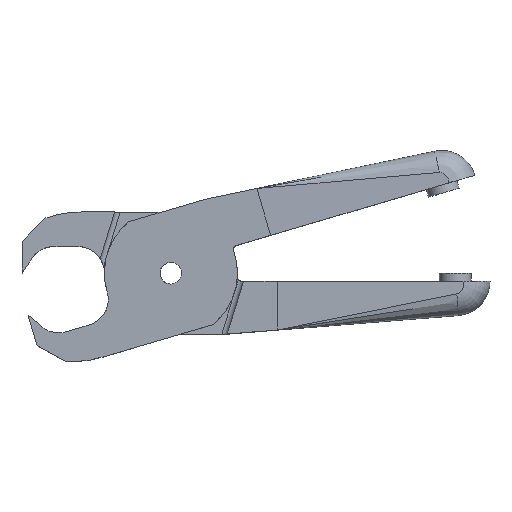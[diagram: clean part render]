
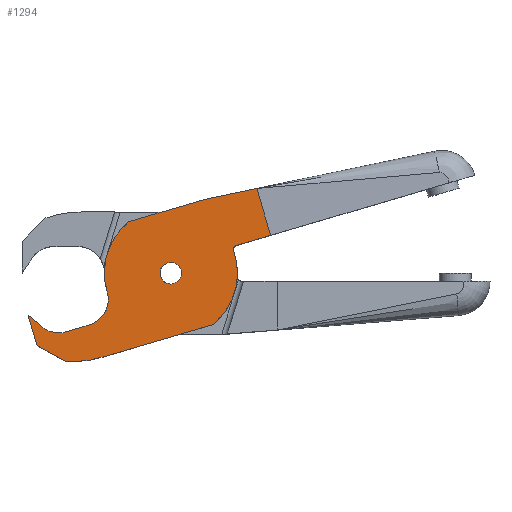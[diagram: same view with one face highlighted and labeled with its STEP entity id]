
A CAD part, top view. The second image highlights one B-rep face of the part: STEP entity #1294.
In plain terms, the highlighted planar face has unit normal (0, 0, 1).
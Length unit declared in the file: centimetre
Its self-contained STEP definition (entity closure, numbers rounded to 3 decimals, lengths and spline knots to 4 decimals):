
#14=FACE_BOUND('',#173,.T.);
#103=FACE_OUTER_BOUND('',#172,.T.);
#172=EDGE_LOOP('',(#922,#923,#924,#925,#926,#927,#928,#929,#930,#931,#932,
#933,#934,#935,#936,#937));
#173=EDGE_LOOP('',(#938));
#236=LINE('',#1854,#350);
#240=LINE('',#1862,#354);
#243=LINE('',#1869,#357);
#251=LINE('',#1886,#365);
#259=LINE('',#1941,#373);
#262=LINE('',#1946,#376);
#264=LINE('',#1950,#378);
#267=LINE('',#1957,#381);
#275=LINE('',#4180,#389);
#277=LINE('',#4184,#391);
#350=VECTOR('',#1494,2.1795);
#354=VECTOR('',#1500,0.07);
#357=VECTOR('',#1505,1.0032);
#365=VECTOR('',#1517,1.4899);
#373=VECTOR('',#1543,0.6097);
#376=VECTOR('',#1548,0.6);
#378=VECTOR('',#1552,0.2523);
#381=VECTOR('',#1561,0.45);
#389=VECTOR('',#1591,0.92);
#391=VECTOR('',#1597,0.67);
#456=CIRCLE('',#1359,0.5);
#460=CIRCLE('',#1368,0.5);
#461=CIRCLE('',#1371,2.);
#463=CIRCLE('',#1378,0.08);
#464=CIRCLE('',#1382,1.25);
#465=CIRCLE('',#1383,1.25);
#466=CIRCLE('',#1384,0.205);
#508=VERTEX_POINT('',#1851);
#509=VERTEX_POINT('',#1853);
#511=VERTEX_POINT('',#1859);
#512=VERTEX_POINT('',#1861);
#514=VERTEX_POINT('',#1866);
#515=VERTEX_POINT('',#1868);
#522=VERTEX_POINT('',#1884);
#524=VERTEX_POINT('',#1891);
#525=VERTEX_POINT('',#1893);
#532=VERTEX_POINT('',#1939);
#533=VERTEX_POINT('',#1940);
#534=VERTEX_POINT('',#1945);
#535=VERTEX_POINT('',#1949);
#536=VERTEX_POINT('',#1953);
#542=VERTEX_POINT('',#2015);
#548=VERTEX_POINT('',#4179);
#549=VERTEX_POINT('',#4186);
#633=EDGE_CURVE('',#508,#509,#236,.T.);
#637=EDGE_CURVE('',#511,#512,#240,.T.);
#640=EDGE_CURVE('',#514,#515,#243,.T.);
#649=EDGE_CURVE('',#522,#514,#251,.T.);
#653=EDGE_CURVE('',#524,#525,#456,.T.);
#663=EDGE_CURVE('',#532,#533,#259,.T.);
#666=EDGE_CURVE('',#533,#534,#262,.T.);
#668=EDGE_CURVE('',#534,#535,#264,.T.);
#670=EDGE_CURVE('',#535,#536,#460,.T.);
#672=EDGE_CURVE('',#536,#524,#267,.T.);
#673=EDGE_CURVE('',#509,#532,#461,.T.);
#683=EDGE_CURVE('',#542,#511,#463,.T.);
#692=EDGE_CURVE('',#515,#548,#275,.T.);
#694=EDGE_CURVE('',#512,#508,#464,.T.);
#695=EDGE_CURVE('',#542,#548,#277,.T.);
#696=EDGE_CURVE('',#525,#522,#465,.T.);
#697=EDGE_CURVE('',#549,#549,#466,.T.);
#922=ORIENTED_EDGE('',*,*,#673,.F.);
#923=ORIENTED_EDGE('',*,*,#633,.F.);
#924=ORIENTED_EDGE('',*,*,#694,.F.);
#925=ORIENTED_EDGE('',*,*,#637,.F.);
#926=ORIENTED_EDGE('',*,*,#683,.F.);
#927=ORIENTED_EDGE('',*,*,#695,.T.);
#928=ORIENTED_EDGE('',*,*,#692,.F.);
#929=ORIENTED_EDGE('',*,*,#640,.F.);
#930=ORIENTED_EDGE('',*,*,#649,.F.);
#931=ORIENTED_EDGE('',*,*,#696,.F.);
#932=ORIENTED_EDGE('',*,*,#653,.F.);
#933=ORIENTED_EDGE('',*,*,#672,.F.);
#934=ORIENTED_EDGE('',*,*,#670,.F.);
#935=ORIENTED_EDGE('',*,*,#668,.F.);
#936=ORIENTED_EDGE('',*,*,#666,.F.);
#937=ORIENTED_EDGE('',*,*,#663,.F.);
#938=ORIENTED_EDGE('',*,*,#697,.F.);
#1172=PLANE('',#1381);
#1294=ADVANCED_FACE('',(#103,#14),#1172,.T.);
#1359=AXIS2_PLACEMENT_3D('',#1894,#1525,#1526);
#1368=AXIS2_PLACEMENT_3D('',#1954,#1556,#1557);
#1371=AXIS2_PLACEMENT_3D('',#1959,#1564,#1565);
#1378=AXIS2_PLACEMENT_3D('',#2017,#1583,#1584);
#1381=AXIS2_PLACEMENT_3D('',#4182,#1593,#1594);
#1382=AXIS2_PLACEMENT_3D('',#4183,#1595,#1596);
#1383=AXIS2_PLACEMENT_3D('',#4185,#1598,#1599);
#1384=AXIS2_PLACEMENT_3D('',#4187,#1600,#1601);
#1494=DIRECTION('',(-0.959,-0.283,0.));
#1500=DIRECTION('',(0.283,-0.959,0.));
#1505=DIRECTION('',(0.979,0.205,0.));
#1517=DIRECTION('',(0.959,0.283,0.));
#1525=DIRECTION('center_axis',(0.,0.,1.));
#1526=DIRECTION('ref_axis',(0.959,0.283,0.));
#1543=DIRECTION('',(-0.878,0.478,0.));
#1548=DIRECTION('',(-0.283,0.959,0.));
#1552=DIRECTION('',(0.782,-0.623,0.));
#1556=DIRECTION('center_axis',(0.,0.,1.));
#1557=DIRECTION('ref_axis',(0.959,0.283,0.));
#1561=DIRECTION('',(0.959,0.283,0.));
#1564=DIRECTION('center_axis',(0.,0.,-1.));
#1565=DIRECTION('ref_axis',(0.959,0.283,0.));
#1583=DIRECTION('center_axis',(0.,0.,1.));
#1584=DIRECTION('ref_axis',(0.283,-0.959,0.));
#1591=DIRECTION('',(0.283,-0.959,0.));
#1593=DIRECTION('center_axis',(0.,0.,1.));
#1594=DIRECTION('ref_axis',(0.959,0.283,0.));
#1595=DIRECTION('center_axis',(0.,0.,-1.));
#1596=DIRECTION('ref_axis',(0.959,0.283,0.));
#1597=DIRECTION('',(0.959,0.283,0.));
#1598=DIRECTION('center_axis',(0.,0.,-1.));
#1599=DIRECTION('ref_axis',(0.959,0.283,0.));
#1600=DIRECTION('center_axis',(0.,0.,1.));
#1601=DIRECTION('ref_axis',(0.959,0.283,0.));
#1851=CARTESIAN_POINT('',(0.7952,-0.9645,0.));
#1853=CARTESIAN_POINT('',(-1.2953,-1.5809,0.));
#1854=CARTESIAN_POINT('',(0.7952,-0.9645,0.));
#1859=CARTESIAN_POINT('',(1.1792,0.4207,0.));
#1861=CARTESIAN_POINT('',(1.199,0.3536,0.));
#1862=CARTESIAN_POINT('',(1.1792,0.4207,0.));
#1866=CARTESIAN_POINT('',(0.6339,1.3859,0.));
#1868=CARTESIAN_POINT('',(1.6157,1.592,0.));
#1869=CARTESIAN_POINT('',(0.6339,1.3859,0.));
#1884=CARTESIAN_POINT('',(-0.7952,0.9645,0.));
#1886=CARTESIAN_POINT('',(-0.7952,0.9645,0.));
#1891=CARTESIAN_POINT('',(-1.5371,-0.9746,0.));
#1893=CARTESIAN_POINT('',(-1.199,-0.3536,0.));
#1894=CARTESIAN_POINT('Origin',(-1.6785,-0.495,0.));
#1939=CARTESIAN_POINT('',(-1.9805,-1.659,0.));
#1940=CARTESIAN_POINT('',(-2.516,-1.3675,0.));
#1941=CARTESIAN_POINT('',(-1.9805,-1.659,0.));
#1945=CARTESIAN_POINT('',(-2.6857,-0.792,0.));
#1946=CARTESIAN_POINT('',(-2.516,-1.3675,0.));
#1949=CARTESIAN_POINT('',(-2.4884,-0.9493,0.));
#1950=CARTESIAN_POINT('',(-2.6857,-0.792,0.));
#1953=CARTESIAN_POINT('',(-1.9687,-1.1018,0.));
#1954=CARTESIAN_POINT('Origin',(-2.1102,-0.6223,0.));
#1957=CARTESIAN_POINT('',(-1.9687,-1.1018,0.));
#1959=CARTESIAN_POINT('Origin',(-1.861,0.3374,0.));
#2015=CARTESIAN_POINT('',(1.2333,0.5201,0.));
#2017=CARTESIAN_POINT('Origin',(1.2559,0.4433,0.));
#4179=CARTESIAN_POINT('',(1.8759,0.7096,0.));
#4180=CARTESIAN_POINT('',(1.6157,1.592,0.));
#4182=CARTESIAN_POINT('Origin',(-0.0584,-1.2162,0.));
#4183=CARTESIAN_POINT('Origin',(0.,0.,
0.));
#4184=CARTESIAN_POINT('',(1.2333,0.5201,0.));
#4185=CARTESIAN_POINT('Origin',(0.,0.,
0.));
#4186=CARTESIAN_POINT('',(0.058,-0.1966,0.));
#4187=CARTESIAN_POINT('Origin',(0.,0.,
0.));
